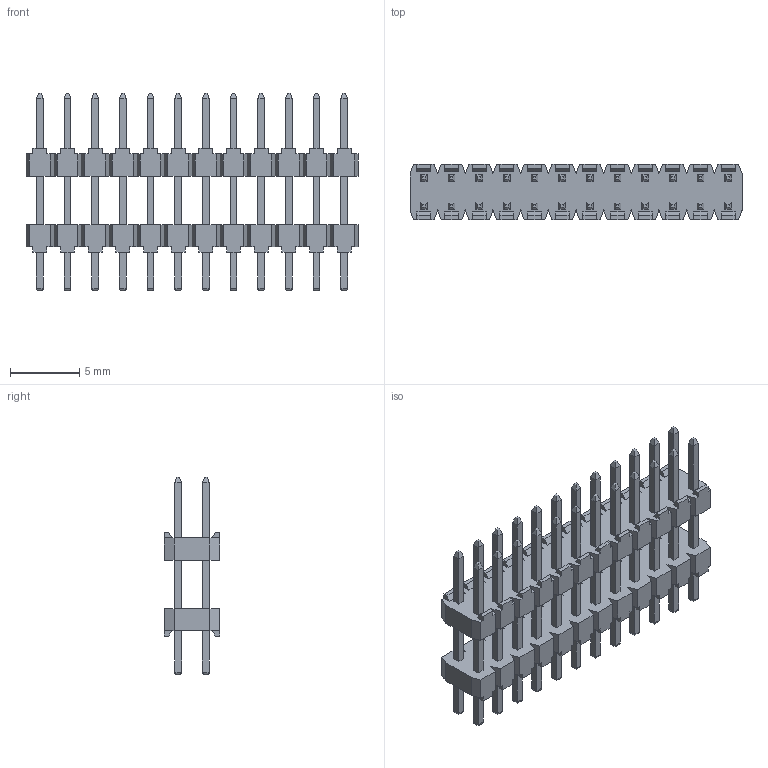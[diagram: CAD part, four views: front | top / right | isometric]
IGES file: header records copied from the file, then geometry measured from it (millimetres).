
Global section: file name: N:\GOLF_VI_2mm_UGII\9514XX_801XX06_AR\951424-8011506-AR.igs; native system: NX V3.0; preprocessor: UGS NX IGES V4.0; date: 20070314.074737; units: millimetre
Bounding box: 24 x 4 x 14.3 mm (x, y, z)
Surface area: 1164 mm2 (no closed solid volume)
Topology: 0 solids, 0 shells, 872 faces, 4537 edges, 4537 vertices
Faces by surface type: bspline 872
